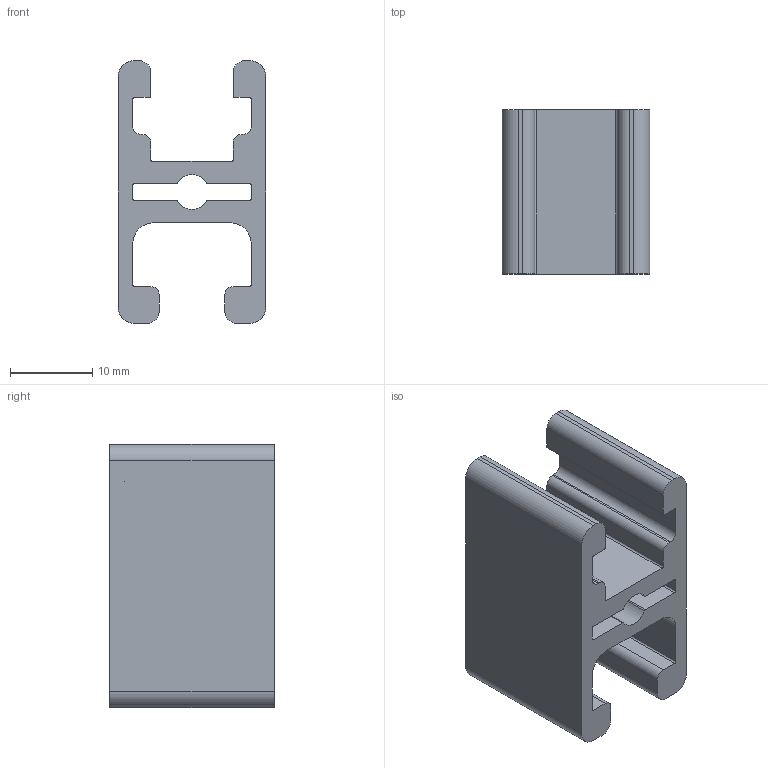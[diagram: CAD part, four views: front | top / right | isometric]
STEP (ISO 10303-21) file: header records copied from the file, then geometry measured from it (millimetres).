
FILE_DESCRIPTION(('STEP AP214'),'1');
FILE_NAME('cctmp_1776F00C-E44B-4692-B95A-6B06A955D352_2023_04_25_14_52_51_0956_48700..stp','2023-04-25T12:52:52',('item Industrietechnik GmbH'),('CADClick - www.CADClick.com'),'Spatial InterOp 3D',' ','unknown authorization');
FILE_SCHEMA(('AUTOMOTIVE_DESIGN'));
Length unit declared in the file: millimetre
Products named in the file (2): item_0037367_Clamp Profile 8 32x18_L=20; item_0037367_Clamp Profile 8 32x18_L=20_1
Assembly tree (1 placements, depth 2):
  item_0037367_Clamp Profile 8 32x18_L=20
    item_0037367_Clamp Profile 8 32x18_L=20_1
Bounding box: 18 x 20 x 32 mm (x, y, z)
Volume: 4969.3 mm3; surface area: 4360.8 mm2
Topology: 1 solids, 1 shells, 66 faces, 192 edges, 128 vertices
Faces by surface type: cylinder 34, plane 32
Entity records: 2787 total; most frequent: DIRECTION 396, CARTESIAN_POINT 388, ORIENTED_EDGE 384, EDGE_CURVE 192, AXIS2_PLACEMENT_3D 136, VERTEX_POINT 128, LINE 124, VECTOR 124
